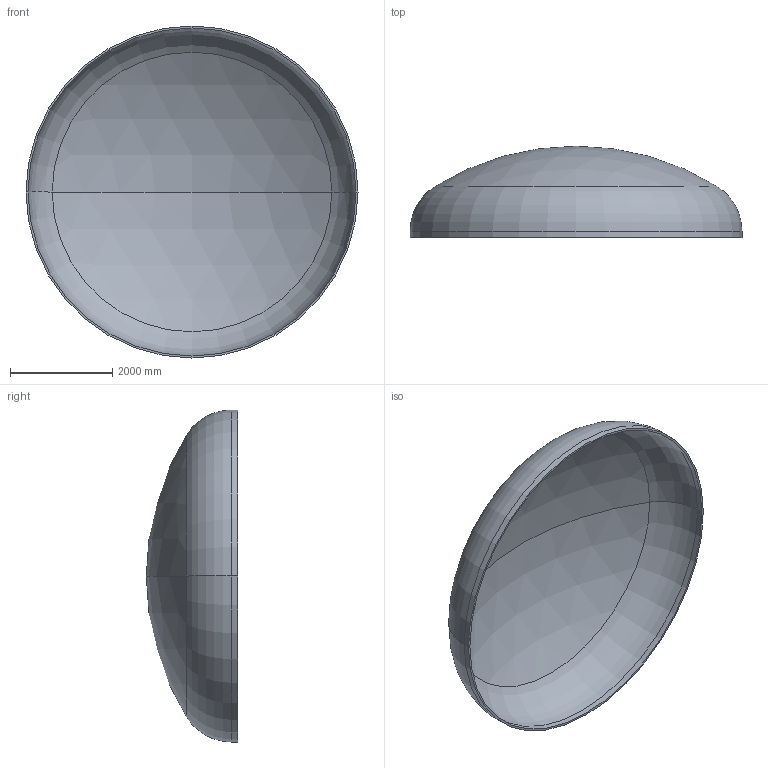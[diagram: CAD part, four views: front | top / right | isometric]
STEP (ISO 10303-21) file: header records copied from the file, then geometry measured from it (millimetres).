
FILE_DESCRIPTION (( 'STEP AP203' ), '1' );
FILE_NAME ('DIN 28013 Korbbogenform_-_Boden DIN 28013 - 6500 x 120 - I - s=39.step', '2016-07-04T10:41:43', ( '' ), ( '' ), 'SwSTEP 2.0', 'SolidWorks 2013', '' );
FILE_SCHEMA (( 'CONFIG_CONTROL_DESIGN' ));
Length unit declared in the file: millimetre
Products named in the file (1): DIN 28013 Korbbogenform_-_Boden DIN 28013 - 6500 x 120 - I - s=39
Bounding box: 6500 x 1788.08 x 6500 mm (x, y, z)
Volume: 1872890465.5 mm3; surface area: 96840428.3 mm2
Topology: 1 solids, 1 shells, 13 faces, 24 edges, 14 vertices
Faces by surface type: torus 4, cylinder 4, sphere 4, plane 1
Entity records: 407 total; most frequent: DIRECTION 72, CARTESIAN_POINT 52, ORIENTED_EDGE 48, AXIS2_PLACEMENT_3D 34, EDGE_CURVE 24, CIRCLE 20, EDGE_LOOP 14, VERTEX_POINT 14
